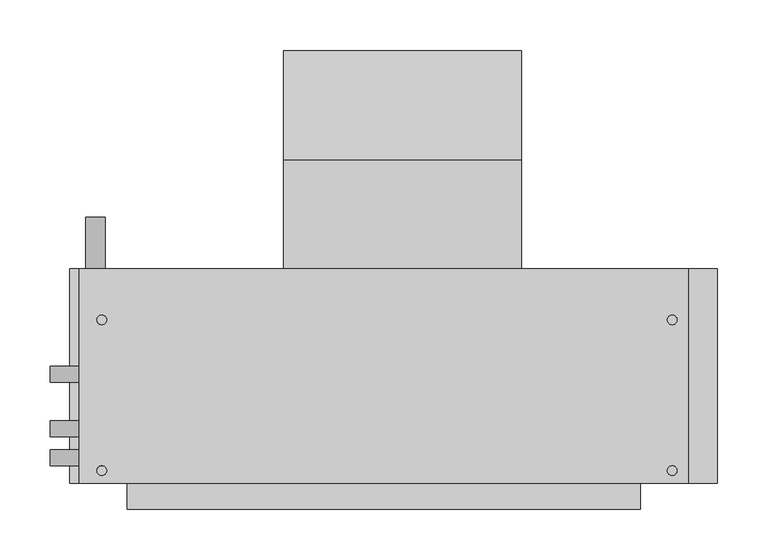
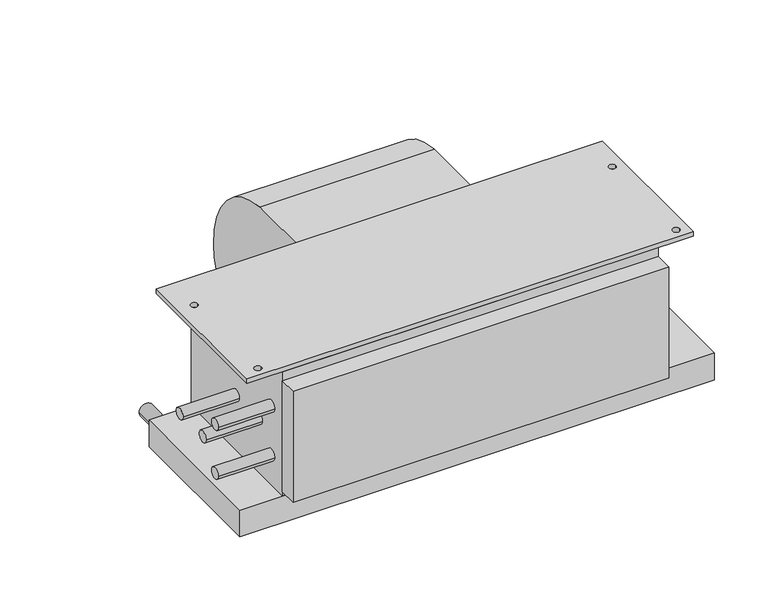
"""IFC4 building model written with IfcOpenShell, lengths in millimetres: proxy geometry, Concealed_Horizontal_Fan_Coil_Unit_-_42CAA_-_CARRIER_-_4-Pipe_LH_2022 : Size 03 - 277v/60Hz/1Ph - 4/1 Coil."""

import ifcopenshell
import ifcopenshell.guid

model = None  # the IFC model being written
_history = None  # IfcOwnerHistory: only IFC2X3 demands one
_inside = {}  # id of a spatial element -> (the spatial element, [elements in it])
_under = {}  # id of a project, library or spatial element -> (it, [spatial elements below it])
_declared = {}  # id of a project -> (the project, [libraries it declares])
_typed = {}  # id of a type object -> (the type object, [elements of that type])
_made_of = {}  # id of a material, layer set ... -> (it, [elements and type objects made of it])


def new_model(schema):
    """Start an empty IFC model of exactly this schema.

    Asked for "IFC4X3", IfcOpenShell would pick the latest addendum, in which some entities
    have other attributes; the version numbers below select the first issue.
    IFC2X3 requires an IfcOwnerHistory on every rooted entity: one is made here for all.
    """
    global model, _history
    if schema == "IFC4X3":
        model = ifcopenshell.file(schema_version=(4, 3, 0, 0))
    else:
        model = ifcopenshell.file(schema=schema)
    _inside.clear()
    _under.clear()
    _declared.clear()
    _typed.clear()
    _made_of.clear()
    _history = None
    if model.schema == "IFC2X3":
        org = make("IfcOrganization", Name="unknown")
        user = make(
            "IfcPersonAndOrganization",
            ThePerson=make("IfcPerson", FamilyName="unknown"),
            TheOrganization=org,
        )
        app = make(
            "IfcApplication",
            ApplicationDeveloper=org,
            Version="unknown",
            ApplicationFullName="unknown",
            ApplicationIdentifier="unknown",
        )
        _history = make(
            "IfcOwnerHistory",
            OwningUser=user,
            OwningApplication=app,
            ChangeAction="ADDED",
            CreationDate=0,
        )
    return model


def make(cls, **values):
    """One entity of the class cls with the attributes given. An attribute that is None is left unset."""
    return model.create_entity(
        cls, **{name: value for name, value in values.items() if value is not None}
    )


def rooted(cls, **values):
    """An entity with a GlobalId (a new one), such as an element, a storey or a relation."""
    return make(cls, GlobalId=ifcopenshell.guid.new(), OwnerHistory=_history, **values)


def si_unit(unit_type, name, prefix=None):
    """IfcSIUnit, for example si_unit("LENGTHUNIT", "METRE", prefix="MILLI")."""
    return make("IfcSIUnit", UnitType=unit_type, Prefix=prefix, Name=name)


def assignment(units):
    """IfcUnitAssignment: the units of a project."""
    return None if units is None else make("IfcUnitAssignment", Units=units)


def point(xyz):
    """IfcCartesianPoint."""
    return None if xyz is None else make("IfcCartesianPoint", Coordinates=xyz)


def direction(xyz):
    """IfcDirection."""
    return None if xyz is None else make("IfcDirection", DirectionRatios=xyz)


def frame(location, z_axis=None, x_axis=None):
    """IfcAxis2Placement3D, a coordinate frame: its origin and axes. An axis left out is left unset."""
    return make(
        "IfcAxis2Placement3D",
        Location=point(location),
        Axis=direction(z_axis),
        RefDirection=direction(x_axis),
    )


def frame_2d(location, x_axis=None):
    """IfcAxis2Placement2D, a coordinate frame in the plane: its origin and x axis."""
    return make(
        "IfcAxis2Placement2D", Location=point(location), RefDirection=direction(x_axis)
    )


def origin():
    """The frame at (0, 0, 0) with its axes left unset."""
    return frame((0.0, 0.0, 0.0))


def place(relative_to, where):
    """IfcLocalPlacement: puts the frame where relative to a parent placement (None: the world)."""
    return make(
        "IfcLocalPlacement", PlacementRelTo=relative_to, RelativePlacement=where
    )


def context(
    kind, dimensions, precision=None, world=None, true_north=None, identifier=None
):
    """IfcGeometricRepresentationContext, for example the 3D "Model" context."""
    return make(
        "IfcGeometricRepresentationContext",
        ContextIdentifier=identifier,
        ContextType=kind,
        CoordinateSpaceDimension=dimensions,
        Precision=precision,
        WorldCoordinateSystem=world,
        TrueNorth=true_north,
    )


def project(units=None, contexts=None):
    """IfcProject with its units and contexts."""
    return rooted(
        "IfcProject",
        Name="project",
        RepresentationContexts=contexts,
        UnitsInContext=assignment(units),
    )


def spatial(cls, under=None, at=None, **own):
    """A site, building, storey or space (cls), placed at a placement, below another one or the project."""
    s = rooted(cls, ObjectPlacement=at, **own)
    if under is not None:
        _under.setdefault(under.id(), (under, []))[1].append(s)
    return s


def polyline(points):
    """IfcPolyline through the points."""
    return make("IfcPolyline", Points=[point(p) for p in points])


def circle_curve(where, radius):
    """IfcCircle in the frame where."""
    return make("IfcCircle", Position=where, Radius=radius)


def trimmed(basis, trim1, trim2, sense, master):
    """IfcTrimmedCurve: the piece of a basis curve between two trims."""
    return make(
        "IfcTrimmedCurve",
        BasisCurve=basis,
        Trim1=trim1,
        Trim2=trim2,
        SenseAgreement=sense,
        MasterRepresentation=master,
    )


def segment(curve, same_sense, transition):
    """IfcCompositeCurveSegment."""
    return make(
        "IfcCompositeCurveSegment",
        Transition=transition,
        SameSense=same_sense,
        ParentCurve=curve,
    )


def composite_curve(segments, self_intersect=None):
    """IfcCompositeCurve: segments joined end to end."""
    return make("IfcCompositeCurve", Segments=segments, SelfIntersect=self_intersect)


def outline(outer, holes=None, kind="AREA"):
    """IfcArbitraryClosedProfileDef: a profile drawn as a closed curve; with holes, ...WithVoids."""
    if holes is None:
        return make("IfcArbitraryClosedProfileDef", ProfileType=kind, OuterCurve=outer)
    return make(
        "IfcArbitraryProfileDefWithVoids",
        ProfileType=kind,
        OuterCurve=outer,
        InnerCurves=holes,
    )


def extrude(swept, where, along, depth):
    """IfcExtrudedAreaSolid: the profile swept, set in the frame where, extruded along a direction by depth."""
    return make(
        "IfcExtrudedAreaSolid",
        SweptArea=swept,
        Position=where,
        ExtrudedDirection=direction(along),
        Depth=depth,
    )


def shape(context_of_items, identifier, shape_type, items):
    """IfcShapeRepresentation: the items that make up one representation, for example the "Body"."""
    return make(
        "IfcShapeRepresentation",
        ContextOfItems=context_of_items,
        RepresentationIdentifier=identifier,
        RepresentationType=shape_type,
        Items=items,
    )


def source(mapping_origin, context_of_items, identifier, shape_type, items):
    """IfcRepresentationMap: a shape defined once, which mapped items show again and again."""
    return make(
        "IfcRepresentationMap",
        MappingOrigin=mapping_origin,
        MappedRepresentation=shape(context_of_items, identifier, shape_type, items),
    )


def transform(
    local_origin,
    x_axis=None,
    y_axis=None,
    z_axis=None,
    scale=None,
    scale2=None,
    scale3=None,
    uniform=True,
):
    """IfcCartesianTransformationOperator3D, or its non-uniform kind. x_axis, y_axis, z_axis: its Axis1, 2, 3."""
    if uniform:
        return make(
            "IfcCartesianTransformationOperator3D",
            Axis1=direction(x_axis),
            Axis2=direction(y_axis),
            LocalOrigin=point(local_origin),
            Scale=scale,
            Axis3=direction(z_axis),
        )
    return make(
        "IfcCartesianTransformationOperator3DnonUniform",
        Axis1=direction(x_axis),
        Axis2=direction(y_axis),
        LocalOrigin=point(local_origin),
        Scale=scale,
        Axis3=direction(z_axis),
        Scale2=scale2,
        Scale3=scale3,
    )


def mapped(mapping_source, mapping_target):
    """IfcMappedItem: shows the shape of a source again, moved by a transform."""
    return make(
        "IfcMappedItem", MappingSource=mapping_source, MappingTarget=mapping_target
    )


def made_of(thing, what):
    """Note that an element or type object is made of a material, layer set ...; save() writes the relation."""
    if what is not None:
        _made_of.setdefault(what.id(), (what, []))[1].append(thing)
    return thing


def element(
    cls,
    number,
    at=None,
    inside=None,
    cuts=None,
    type_object=None,
    material=None,
    context=None,
    identifier="Body",
    shape_type=None,
    held_by="IfcProductDefinitionShape",
    body=None,
    shapes=None,
    **own,
):
    """One element of the class cls, such as IfcWall. Its Tag is "e" and its number.

    at: its placement. inside: the storey or other place that contains it. cuts: it is an
    opening in that element (IfcRelVoidsElement). A single representation is given by context,
    identifier, shape_type and body (its items); several are given by shapes. held_by: the class
    of the entity that holds the representations. save() writes the other relations.
    """
    e = rooted(cls, Tag="e%d" % number, ObjectPlacement=at, **own)
    if body is not None:
        shapes = [shape(context, identifier, shape_type, body)]
    if shapes is not None:
        e.Representation = make(held_by, Representations=shapes)
    if inside is not None:
        _inside.setdefault(inside.id(), (inside, []))[1].append(e)
    if cuts is not None:
        rooted(
            "IfcRelVoidsElement", RelatingBuildingElement=cuts, RelatedOpeningElement=e
        )
    if type_object is not None:
        _typed.setdefault(type_object.id(), (type_object, []))[1].append(e)
    return made_of(e, material)


def aggregate(whole, parts):
    """IfcRelAggregates: a whole, such as a stair, and the parts it consists of."""
    return rooted("IfcRelAggregates", RelatingObject=whole, RelatedObjects=parts)


def save(model, path):
    """Write the relations noted so far, then the file.

    IfcRelAggregates (storeys below a building ...), IfcRelContainedInSpatialStructure (elements
    in a storey), IfcRelDefinesByType, IfcRelAssociatesMaterial and IfcRelDeclares: one each for
    every whole, place, type object, material and project.
    """
    for whole, parts in _under.values():
        aggregate(whole, parts)
    for where, things in _inside.values():
        rooted(
            "IfcRelContainedInSpatialStructure",
            RelatedElements=things,
            RelatingStructure=where,
        )
    for kind, things in _typed.values():
        rooted("IfcRelDefinesByType", RelatedObjects=things, RelatingType=kind)
    for what, things in _made_of.values():
        rooted("IfcRelAssociatesMaterial", RelatedObjects=things, RelatingMaterial=what)
    for by, libraries in _declared.values():
        rooted("IfcRelDeclares", RelatingContext=by, RelatedDefinitions=libraries)
    model.write(path)


def mechanical_equipment_d114ed6d(model_context):
    return source(origin(), model_context, "Body", "SweptSolid", [
        extrude(outline(composite_curve([segment(trimmed(circle_curve(frame_2d((-33.198831, -136.0299844)), 117.3559541), [point((-23.8125, -19.05))], [point((84.1375, -138.176))], False, "CARTESIAN"), True, "CONTINUOUS"), segment(trimmed(circle_curve(frame_2d((-11.5977337, -136.4250563)), 95.7512443), [point((84.1375, -138.176))], [point((-23.8125, -231.394))], False, "CARTESIAN"), True, "CONTINUOUS"), segment(trimmed(circle_curve(frame_2d((-11.6288131, -136.6666968)), 95.5076133), [point((-23.8125, -231.394))], [point((-107.1245, -138.176))], False, "CARTESIAN"), True, "CONTINUOUS"), segment(trimmed(circle_curve(frame_2d((-126.2059828, -138.4775816)), 19.0838659), [point((-107.1245, -138.176))], [point((-119.3963373, -120.65))], True, "CARTESIAN"), True, "CONTINUOUS"), segment(polyline([(-119.3963373, -120.65), (-131.7625, -120.65), (-131.7625, -19.05), (-23.8125, -19.05)]), True, "CONTINUOUS")], self_intersect=False)), frame((53.213, 0.0, 0.0), z_axis=(1.0, 0.0, 0.0), x_axis=(0.0, 1.0, 0.0)), (0.0, 0.0, 1.0), 235.712),
        extrude(outline(polyline([(454.025, -131.7625), (454.025, -344.4875), (-149.225, -344.4875), (-149.225, -131.7625), (454.025, -131.7625)]), holes=[composite_curve([segment(trimmed(circle_curve(frame_2d((-127.0, -182.5625)), 4.7625), [point((-131.7625, -182.5625))], [point((-122.2375, -182.5625))], True, "CARTESIAN"), True, "CONTINUOUS"), segment(trimmed(circle_curve(frame_2d((-127.0, -182.5625)), 4.7625), [point((-122.2375, -182.5625))], [point((-131.7625, -182.5625))], True, "CARTESIAN"), True, "CONTINUOUS")], self_intersect=False), composite_curve([segment(trimmed(circle_curve(frame_2d((-127.0, -331.7875)), 4.7625), [point((-131.7625, -331.7875))], [point((-122.2375, -331.7875))], True, "CARTESIAN"), True, "CONTINUOUS"), segment(trimmed(circle_curve(frame_2d((-127.0, -331.7875)), 4.7625), [point((-122.2375, -331.7875))], [point((-131.7625, -331.7875))], True, "CARTESIAN"), True, "CONTINUOUS")], self_intersect=False), composite_curve([segment(trimmed(circle_curve(frame_2d((438.15, -182.5625)), 4.7625), [point((433.3875, -182.5625))], [point((442.9125, -182.5625))], True, "CARTESIAN"), True, "CONTINUOUS"), segment(trimmed(circle_curve(frame_2d((438.15, -182.5625)), 4.7625), [point((442.9125, -182.5625))], [point((433.3875, -182.5625))], True, "CARTESIAN"), True, "CONTINUOUS")], self_intersect=False), composite_curve([segment(trimmed(circle_curve(frame_2d((438.15, -331.7875)), 4.7625), [point((433.3875, -331.7875))], [point((442.9125, -331.7875))], True, "CARTESIAN"), True, "CONTINUOUS"), segment(trimmed(circle_curve(frame_2d((438.15, -331.7875)), 4.7625), [point((442.9125, -331.7875))], [point((433.3875, -331.7875))], True, "CARTESIAN"), True, "CONTINUOUS")], self_intersect=False)]), frame((0.0, 0.0, -6.35), z_axis=(0.0, 0.0, 1.0), x_axis=(1.0, 0.0, 0.0)), (0.0, 0.0, 1.0), 6.35),
        extrude(outline(composite_curve([segment(trimmed(circle_curve(frame_2d((-209.55, -133.35)), 9.525), [point((-209.55, -142.875))], [point((-209.55, -123.825))], False, "CARTESIAN"), True, "CONTINUOUS"), segment(trimmed(circle_curve(frame_2d((-209.55, -133.35)), 9.525), [point((-209.55, -123.825))], [point((-209.55, -142.875))], False, "CARTESIAN"), True, "CONTINUOUS")], self_intersect=False)), frame((0.0, -131.7625, 0.0), z_axis=(0.0, 1.0, 0.0), x_axis=(0.0, 0.0, 1.0)), (0.0, 0.0, 1.0), 50.8),
        extrude(outline(polyline([(406.4, -369.8875), (-101.6, -369.8875), (-101.6, -344.4875), (406.4, -344.4875), (406.4, -369.8875)])), frame((0.0, 0.0, -177.8), z_axis=(0.0, 0.0, 1.0), x_axis=(1.0, 0.0, 0.0)), (0.0, 0.0, 1.0), 158.75),
        extrude(outline(polyline([(482.6, -131.7625), (482.6, -344.4875), (-158.75, -344.4875), (-158.75, -131.7625), (482.6, -131.7625)])), frame((0.0, 0.0, -222.25), z_axis=(0.0, 0.0, 1.0), x_axis=(1.0, 0.0, 0.0)), (0.0, 0.0, 1.0), 38.1),
        extrude(outline(composite_curve([segment(trimmed(circle_curve(frame_2d((-236.5375, -104.775)), 7.9375), [point((-228.6, -104.775))], [point((-244.475, -104.775))], False, "CARTESIAN"), True, "CONTINUOUS"), segment(trimmed(circle_curve(frame_2d((-236.5375, -104.775)), 7.9375), [point((-244.475, -104.775))], [point((-228.6, -104.775))], False, "CARTESIAN"), True, "CONTINUOUS")], self_intersect=False)), frame((-177.8, 0.0, 0.0), z_axis=(1.0, 0.0, 0.0), x_axis=(0.0, 1.0, 0.0)), (0.0, 0.0, 1.0), 76.2),
        extrude(outline(composite_curve([segment(trimmed(circle_curve(frame_2d((-290.5125, -104.775)), 7.9375), [point((-282.575, -104.775))], [point((-298.45, -104.775))], False, "CARTESIAN"), True, "CONTINUOUS"), segment(trimmed(circle_curve(frame_2d((-290.5125, -104.775)), 7.9375), [point((-298.45, -104.775))], [point((-282.575, -104.775))], False, "CARTESIAN"), True, "CONTINUOUS")], self_intersect=False)), frame((-177.8, 0.0, 0.0), z_axis=(1.0, 0.0, 0.0), x_axis=(0.0, 1.0, 0.0)), (0.0, 0.0, 1.0), 76.2),
        extrude(outline(composite_curve([segment(trimmed(circle_curve(frame_2d((-319.0875, -69.85)), 7.9375), [point((-311.15, -69.85))], [point((-327.025, -69.85))], False, "CARTESIAN"), True, "CONTINUOUS"), segment(trimmed(circle_curve(frame_2d((-319.0875, -69.85)), 7.9375), [point((-327.025, -69.85))], [point((-311.15, -69.85))], False, "CARTESIAN"), True, "CONTINUOUS")], self_intersect=False)), frame((-177.8, 0.0, 0.0), z_axis=(1.0, 0.0, 0.0), x_axis=(0.0, 1.0, 0.0)), (0.0, 0.0, 1.0), 76.2),
        extrude(outline(composite_curve([segment(trimmed(circle_curve(frame_2d((-319.0875, -139.7)), 7.9375), [point((-311.15, -139.7))], [point((-327.025, -139.7))], False, "CARTESIAN"), True, "CONTINUOUS"), segment(trimmed(circle_curve(frame_2d((-319.0875, -139.7)), 7.9375), [point((-327.025, -139.7))], [point((-311.15, -139.7))], False, "CARTESIAN"), True, "CONTINUOUS")], self_intersect=False)), frame((-177.8, 0.0, 0.0), z_axis=(1.0, 0.0, 0.0), x_axis=(0.0, 1.0, 0.0)), (0.0, 0.0, 1.0), 76.2),
        extrude(outline(polyline([(406.4, -344.4875), (-101.6, -344.4875), (-101.6, -131.7625), (406.4, -131.7625), (406.4, -344.4875)])), frame((0.0, 0.0, -184.15), z_axis=(0.0, 0.0, 1.0), x_axis=(1.0, 0.0, 0.0)), (0.0, 0.0, 1.0), 177.8),
    ])


if __name__ == "__main__":
    model = new_model("IFC4")
    model_context = context("Model", 3, world=origin())
    ifc_project = project(units=[si_unit("LENGTHUNIT", "METRE", prefix="MILLI")], contexts=[model_context])
    site = spatial("IfcSite", under=ifc_project)
    building = spatial("IfcBuilding", under=site)
    placement = place(None, origin())
    mechanical_equipment_shape = mechanical_equipment_d114ed6d(model_context)
    element("IfcBuildingElementProxy", 1, Name="Concealed_Horizontal_Fan_Coil_Unit_-_42CAA_-_CARRIER_-_4-Pipe_LH_2022 : Size 03 - 277v/60Hz/1Ph - 4/1 Coil", ObjectType="Concealed_Horizontal_Fan_Coil_Unit_-_42CAA_-_CARRIER_-_4-Pipe_LH_2022 : Size 03 - 277v/60Hz/1Ph - 4/1 Coil", at=placement, inside=building, context=model_context, shape_type="MappedRepresentation", body=[
        mapped(mechanical_equipment_shape, transform((0.0, 0.0, 0.0), x_axis=(1.0, 0.0, 0.0), y_axis=(0.0, 1.0, 0.0), z_axis=(0.0, 0.0, 1.0))),
    ])
    save(model, "model.ifc")
